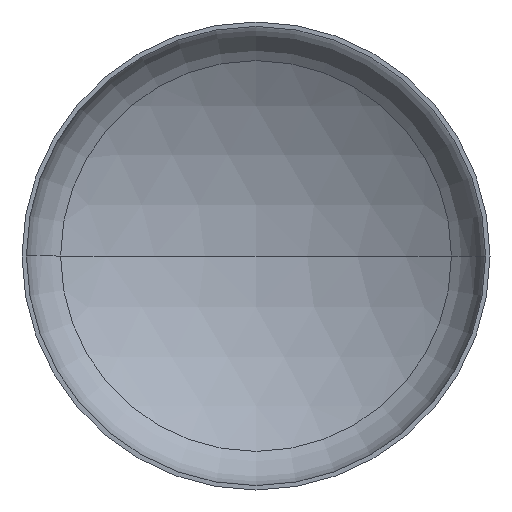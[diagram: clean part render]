
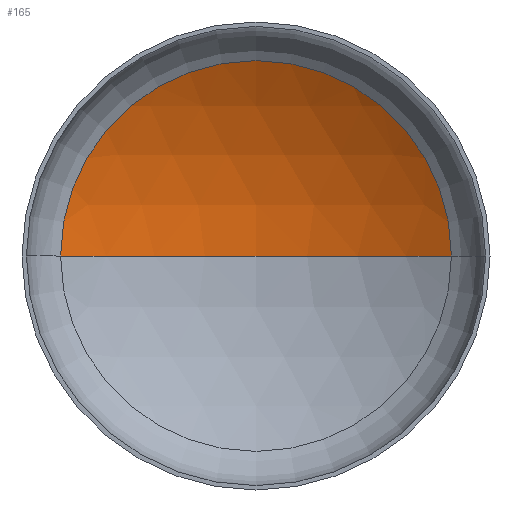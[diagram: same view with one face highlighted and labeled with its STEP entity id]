
A CAD part, front view. The second image highlights one B-rep face of the part: STEP entity #165.
In plain terms, the highlighted spherical face has radius 1440 mm.
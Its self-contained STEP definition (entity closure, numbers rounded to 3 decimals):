
#2 = DIRECTION ( 'NONE',  ( -1., 0., 0. ) ) ;
#9 = DIRECTION ( 'NONE',  ( 1., 0., 0. ) ) ;
#11 = DIRECTION ( 'NONE',  ( 0., 0., 1. ) ) ;
#15 = CARTESIAN_POINT ( 'NONE',  ( 0., -938.761, 0. ) ) ;
#20 = ORIENTED_EDGE ( 'NONE', *, *, #126, .T. ) ;
#29 = ORIENTED_EDGE ( 'NONE', *, *, #127, .T. ) ;
#50 = AXIS2_PLACEMENT_3D ( 'NONE', #250, #240, #238 ) ;
#66 = AXIS2_PLACEMENT_3D ( 'NONE', #15, #11, #9 ) ;
#70 = AXIS2_PLACEMENT_3D ( 'NONE', #292, #147, #2 ) ;
#74 = AXIS2_PLACEMENT_3D ( 'NONE', #217, #200, #205 ) ;
#76 = ORIENTED_EDGE ( 'NONE', *, *, #130, .F. ) ;
#83 = VERTEX_POINT ( 'NONE', #268 ) ;
#87 = VERTEX_POINT ( 'NONE', #246 ) ;
#124 = VERTEX_POINT ( 'NONE', #304 ) ;
#126 = EDGE_CURVE ( 'NONE', #83, #124, #244, .T. ) ;
#127 = EDGE_CURVE ( 'NONE', #87, #83, #408, .T. ) ;
#130 = EDGE_CURVE ( 'NONE', #87, #124, #180, .T. ) ;
#147 = DIRECTION ( 'NONE',  ( 0., 0., -1. ) ) ;
#162 = SPHERICAL_SURFACE ( 'NONE', #50, 1440. ) ;
#165 = ADVANCED_FACE ( 'NONE', ( #346 ), #162, .F. ) ;
#180 = CIRCLE ( 'NONE', #66, 1440. ) ;
#198 = EDGE_LOOP ( 'NONE', ( #76, #29, #20 ) ) ;
#200 = DIRECTION ( 'NONE',  ( 0., -1., 0. ) ) ;
#205 = DIRECTION ( 'NONE',  ( 1., 0., 0. ) ) ;
#217 = CARTESIAN_POINT ( 'NONE',  ( 0., 289.579, 0. ) ) ;
#238 = DIRECTION ( 'NONE',  ( -1., 0., 0. ) ) ;
#240 = DIRECTION ( 'NONE',  ( 0., 0., -1. ) ) ;
#244 = CIRCLE ( 'NONE', #74, 751.519 ) ;
#246 = CARTESIAN_POINT ( 'NONE',  ( 0., 501.239, 0. ) ) ;
#250 = CARTESIAN_POINT ( 'NONE',  ( 0., -938.761, 0. ) ) ;
#268 = CARTESIAN_POINT ( 'NONE',  ( 751.519, 289.579, 0. ) ) ;
#292 = CARTESIAN_POINT ( 'NONE',  ( 0., -938.761, 0. ) ) ;
#304 = CARTESIAN_POINT ( 'NONE',  ( -751.519, 289.579, 0. ) ) ;
#346 = FACE_OUTER_BOUND ( 'NONE', #198, .T. ) ;
#408 = CIRCLE ( 'NONE', #70, 1440. ) ;
